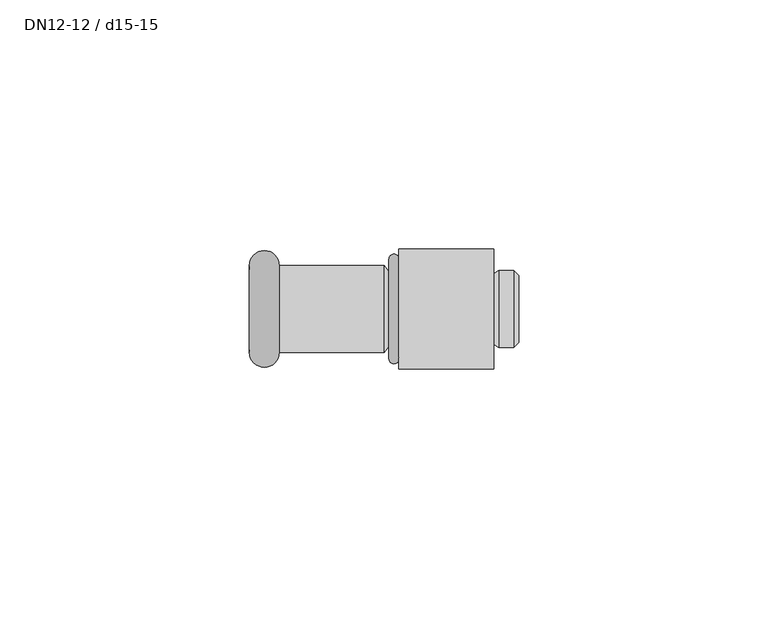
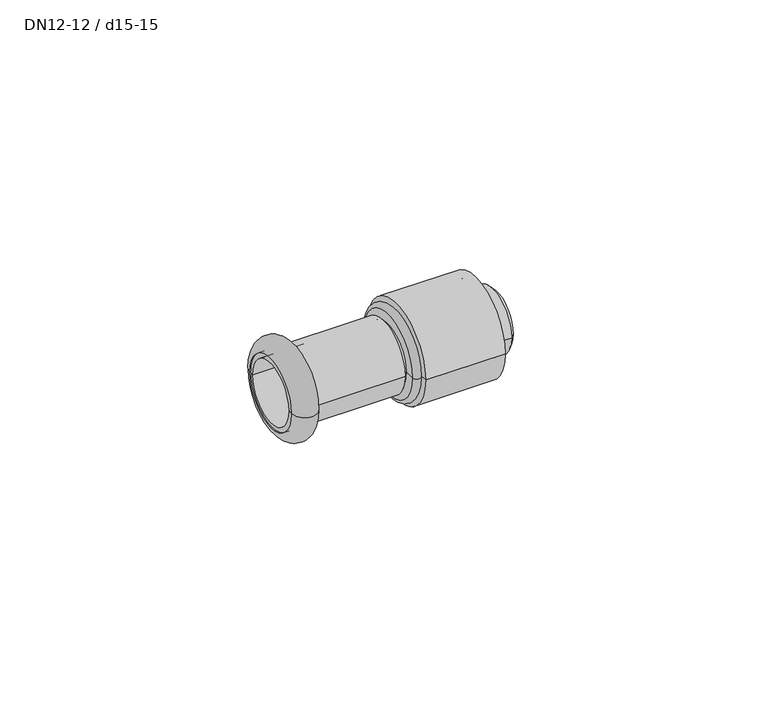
"""IFC4 building model written with IfcOpenShell, lengths in millimetres: pipe fitting geometry, NLRS_50_PIF_UN_Mapress overgang met MasterFix_geb : DN12-12 / d15-15."""

from ifc_helpers import new_model, si_unit, point, frame, origin, place, context, project, spatial, polyline, circle_curve, ellipse_curve, trimmed, source, transform, mapped, element, save
from ifc_brep_helpers import plane_surface, cylinder_surface, revolved_surface, advanced_brep


def dn12_12_d15_15_60170937(model_context):
    return source(origin(), model_context, "Body", "AdvancedBrep", [
        advanced_brep(
        [(-27.0, 8.7, 0.0), (-27.0, -8.7, 0.0), (-20.9987073, -8.7, 0.0), (-20.9987073, 8.7, 0.0)],
        [
            (0, 1, circle_curve(frame((-27.0, 0.0, 0.0), z_axis=(-1.0, 0.0, 0.0), x_axis=(0.0, -1.0, 0.0)), 8.7)),
            (1, 2),
            (2, 3, circle_curve(frame((-20.9987073, 0.0, 0.0), z_axis=(1.0, 0.0, 0.0), x_axis=(0.0, -1.0, 0.0)), 8.7)),
            (3, 0),
            (1, 0, circle_curve(frame((-27.0, 0.0, 0.0), z_axis=(-1.0, 0.0, 0.0), x_axis=(0.0, -1.0, 0.0)), 8.7)),
            (3, 2, circle_curve(frame((-20.9987073, 0.0, 0.0), z_axis=(1.0, 0.0, 0.0), x_axis=(0.0, -1.0, 0.0)), 8.7)),
            (2, 1, circle_curve(frame((-23.9993536, -8.7, 0.0), z_axis=(0.0, 0.0, -1.0), x_axis=(-1.0, 0.0, 0.0)), 3.0006464)),
            (0, 3, circle_curve(frame((-23.9993536, 8.7, 0.0), z_axis=(0.0, 0.0, -1.0), x_axis=(-1.0, 0.0, 0.0)), 3.0006464)),
        ],
        [
            revolved_surface(polyline([(-20.9987073, -8.7, 0.0), (-27.0, -8.7, 0.0)]), (0.0, 0.0, 0.0), (1.0, 0.0, 0.0)),
            revolved_surface(trimmed(ellipse_curve(frame((-23.9993536, -8.7, 0.0), z_axis=(0.0, 0.0, 1.0), x_axis=(-1.0, 0.0, 0.0)), 3.0006464, 3.0006464), [point((-27.0, -8.7, 0.0))], [point((-20.9987073, -8.7, 0.0))], True, "CARTESIAN"), (0.0, 0.0, 0.0), (1.0, 0.0, 0.0)),
        ],
        [
            (0, [[1, 2, 3, 4]]),
            (0, [[5, -4, 6, -2]]),
            (1, [[-3, 7, -1, 8]]),
            (1, [[-6, -8, -5, -7]]),
        ],
    ),
        advanced_brep(
        [(-27.0, 7.5, 0.0), (-27.0, -7.5, 0.0), (1.0, -7.5, 0.0), (1.0, 7.5, 0.0), (-27.0, 8.7, 0.0), (-27.0, -8.7, 0.0), (0.0, 8.7, 0.0), (0.0, -8.7, 0.0)],
        [
            (0, 1, circle_curve(frame((-27.0, 0.0, 0.0), z_axis=(-1.0, 0.0, 0.0), x_axis=(0.0, -1.0, 0.0)), 7.5)),
            (1, 2),
            (2, 3, circle_curve(frame((1.0, 0.0, 0.0), z_axis=(1.0, 0.0, 0.0), x_axis=(0.0, -1.0, 0.0)), 7.5)),
            (3, 0),
            (1, 0, circle_curve(frame((-27.0, 0.0, 0.0), z_axis=(-1.0, 0.0, 0.0), x_axis=(0.0, -1.0, 0.0)), 7.5)),
            (3, 2, circle_curve(frame((1.0, 0.0, 0.0), z_axis=(1.0, 0.0, 0.0), x_axis=(0.0, -1.0, 0.0)), 7.5)),
            (4, 5, circle_curve(frame((-27.0, 0.0, 0.0), z_axis=(-1.0, 0.0, 0.0), x_axis=(0.0, -1.0, 0.0)), 8.7)),
            (5, 1),
            (0, 4),
            (5, 4, circle_curve(frame((-27.0, 0.0, 0.0), z_axis=(-1.0, 0.0, 0.0), x_axis=(0.0, -1.0, 0.0)), 8.7)),
            (6, 7, circle_curve(frame((0.0, 0.0, 0.0), z_axis=(-1.0, 0.0, 0.0), x_axis=(0.0, -1.0, 0.0)), 8.7)),
            (7, 5),
            (4, 6),
            (7, 6, circle_curve(frame((0.0, 0.0, 0.0), z_axis=(-1.0, 0.0, 0.0), x_axis=(0.0, -1.0, 0.0)), 8.7)),
            (2, 7),
            (6, 3),
        ],
        [
            revolved_surface(polyline([(1.0, -7.5, 0.0), (-27.0, -7.5, 0.0)]), (0.0, 0.0, 0.0), (1.0, 0.0, 0.0)),
            plane_surface(frame((-27.0, 0.0, 0.0), z_axis=(-1.0, 0.0, 0.0), x_axis=(0.0, -1.0, 0.0))),
            cylinder_surface(frame((0.0, 0.0, 0.0), z_axis=(1.0, 0.0, 0.0), x_axis=(0.0, -1.0, 0.0)), 8.7),
            revolved_surface(polyline([(0.0, -8.7, 0.0), (1.0, -7.5, 0.0)]), (0.0, 0.0, 0.0), (1.0, 0.0, 0.0)),
        ],
        [
            (0, [[1, 2, 3, 4]]),
            (0, [[5, -4, 6, -2]]),
            (1, [[7, 8, -1, 9]]),
            (1, [[10, -9, -5, -8]]),
            (2, [[11, 12, -7, 13]]),
            (2, [[14, -13, -10, -12]]),
            (3, [[-3, 15, -11, 16]]),
            (3, [[-6, -16, -14, -15]]),
        ],
    ),
        advanced_brep(
        [(27.0, 0.0, 0.0), (27.0, -6.7, 0.0), (27.0, 6.7, 0.0), (1.0, 10.0, 0.0), (1.0, -10.0, 0.0), (1.0, 0.0, 0.0), (3.0, 10.0, 0.0), (3.0, -10.0, 0.0), (3.0, 7.7, 0.0), (3.0, -7.7, 0.0), (11.881966, 7.7, 0.0), (11.881966, -7.7, 0.0), (14.118034, 7.7, 0.0), (14.118034, -7.7, 0.0), (16.9414451, 7.7, 0.0), (16.9414451, -7.7, 0.0), (22.9892433, 7.7, 0.0), (22.9892433, -7.7, 0.0), (26.0, 7.7, 0.0), (26.0, -7.7, 0.0)],
        [
            (0, 1),
            (1, 2, circle_curve(frame((27.0, 0.0, 0.0), z_axis=(1.0, 0.0, 0.0), x_axis=(0.0, -1.0, 0.0)), 6.7)),
            (2, 0),
            (2, 1, circle_curve(frame((27.0, 0.0, 0.0), z_axis=(1.0, 0.0, 0.0), x_axis=(0.0, -1.0, 0.0)), 6.7)),
            (3, 4, circle_curve(frame((1.0, 0.0, 0.0), z_axis=(-1.0, 0.0, 0.0), x_axis=(0.0, -1.0, 0.0)), 10.0)),
            (4, 5),
            (5, 3),
            (4, 3, circle_curve(frame((1.0, 0.0, 0.0), z_axis=(-1.0, 0.0, 0.0), x_axis=(0.0, -1.0, 0.0)), 10.0)),
            (6, 7, circle_curve(frame((3.0, 0.0, 0.0), z_axis=(-1.0, 0.0, 0.0), x_axis=(0.0, -1.0, 0.0)), 10.0)),
            (7, 4, circle_curve(frame((2.0, -10.0, 0.0), z_axis=(0.0, 0.0, -1.0), x_axis=(-1.0, 0.0, 0.0)), 1.0)),
            (3, 6, circle_curve(frame((2.0, 10.0, 0.0), z_axis=(0.0, 0.0, -1.0), x_axis=(-1.0, 0.0, 0.0)), 1.0)),
            (7, 6, circle_curve(frame((3.0, 0.0, 0.0), z_axis=(-1.0, 0.0, 0.0), x_axis=(0.0, -1.0, 0.0)), 10.0)),
            (8, 9, circle_curve(frame((3.0, 0.0, 0.0), z_axis=(-1.0, 0.0, 0.0), x_axis=(0.0, -1.0, 0.0)), 7.7)),
            (9, 7),
            (6, 8),
            (9, 8, circle_curve(frame((3.0, 0.0, 0.0), z_axis=(-1.0, 0.0, 0.0), x_axis=(0.0, -1.0, 0.0)), 7.7)),
            (10, 11, circle_curve(frame((11.881966, 0.0, 0.0), z_axis=(-1.0, 0.0, 0.0), x_axis=(0.0, -1.0, 0.0)), 7.7)),
            (11, 9),
            (8, 10),
            (11, 10, circle_curve(frame((11.881966, 0.0, 0.0), z_axis=(-1.0, 0.0, 0.0), x_axis=(0.0, -1.0, 0.0)), 7.7)),
            (12, 13, circle_curve(frame((14.118034, 0.0, 0.0), z_axis=(-1.0, 0.0, 0.0), x_axis=(0.0, -1.0, 0.0)), 7.7)),
            (13, 11, circle_curve(frame((13.0, -7.1889209, 0.0), z_axis=(0.0, 0.0, -1.0), x_axis=(-1.0, 0.0, 0.0)), 1.2293095)),
            (10, 12, circle_curve(frame((13.0, 7.1889209, 0.0), z_axis=(0.0, 0.0, -1.0), x_axis=(-1.0, 0.0, 0.0)), 1.2293095)),
            (13, 12, circle_curve(frame((14.118034, 0.0, 0.0), z_axis=(-1.0, 0.0, 0.0), x_axis=(0.0, -1.0, 0.0)), 7.7)),
            (14, 15, circle_curve(frame((16.9414451, 0.0, 0.0), z_axis=(-1.0, 0.0, 0.0), x_axis=(0.0, -1.0, 0.0)), 7.7)),
            (15, 13),
            (12, 14),
            (15, 14, circle_curve(frame((16.9414451, 0.0, 0.0), z_axis=(-1.0, 0.0, 0.0), x_axis=(0.0, -1.0, 0.0)), 7.7)),
            (16, 17, circle_curve(frame((22.9892433, 0.0, 0.0), z_axis=(-1.0, 0.0, 0.0), x_axis=(0.0, -1.0, 0.0)), 7.7)),
            (17, 15, circle_curve(frame((19.9653442, -11.7319636, 0.0), z_axis=(0.0, 0.0, 1.0), x_axis=(-1.0, 0.0, 0.0)), 5.0399104)),
            (14, 16, circle_curve(frame((19.9653442, 11.7319636, 0.0), z_axis=(0.0, 0.0, 1.0), x_axis=(-1.0, 0.0, 0.0)), 5.0399104)),
            (17, 16, circle_curve(frame((22.9892433, 0.0, 0.0), z_axis=(-1.0, 0.0, 0.0), x_axis=(0.0, -1.0, 0.0)), 7.7)),
            (18, 19, circle_curve(frame((26.0, 0.0, 0.0), z_axis=(-1.0, 0.0, 0.0), x_axis=(0.0, -1.0, 0.0)), 7.7)),
            (19, 17),
            (16, 18),
            (19, 18, circle_curve(frame((26.0, 0.0, 0.0), z_axis=(-1.0, 0.0, 0.0), x_axis=(0.0, -1.0, 0.0)), 7.7)),
            (1, 19),
            (18, 2),
        ],
        [
            plane_surface(frame((27.0, 0.0, 0.0), z_axis=(1.0, 0.0, 0.0), x_axis=(0.0, -1.0, 0.0))),
            plane_surface(frame((1.0, 0.0, 0.0), z_axis=(-1.0, 0.0, 0.0), x_axis=(0.0, -1.0, 0.0))),
            revolved_surface(trimmed(ellipse_curve(frame((2.0, -10.0, 0.0), z_axis=(0.0, 0.0, 1.0), x_axis=(-1.0, 0.0, 0.0)), 1.0, 1.0), [point((1.0, -10.0, 0.0))], [point((3.0, -10.0, 0.0))], True, "CARTESIAN"), (35.045876, 0.0, 0.0), (1.0, 0.0, 0.0)),
            plane_surface(frame((3.0, 0.0, 0.0), z_axis=(1.0, 0.0, 0.0), x_axis=(0.0, -1.0, 0.0))),
            cylinder_surface(frame((35.045876, 0.0, 0.0), z_axis=(1.0, 0.0, 0.0), x_axis=(0.0, -1.0, 0.0)), 7.7),
            revolved_surface(trimmed(ellipse_curve(frame((13.0, -7.1889209, 0.0), z_axis=(0.0, 0.0, 1.0), x_axis=(-1.0, 0.0, 0.0)), 1.2293095, 1.2293095), [point((11.881966, -7.7, 0.0))], [point((14.118034, -7.7, 0.0))], True, "CARTESIAN"), (35.045876, 0.0, 0.0), (1.0, 0.0, 0.0)),
            revolved_surface(trimmed(ellipse_curve(frame((19.9653442, -11.7319636, 0.0), z_axis=(0.0, 0.0, -1.0), x_axis=(-1.0, 0.0, 0.0)), 5.0399104, 5.0399104), [point((16.9414451, -7.7, 0.0))], [point((22.9892433, -7.7, 0.0))], True, "CARTESIAN"), (35.045876, 0.0, 0.0), (1.0, 0.0, 0.0)),
            revolved_surface(polyline([(26.0, -7.7, 0.0), (27.0, -6.7, 0.0)]), (35.045876, 0.0, 0.0), (1.0, 0.0, 0.0)),
        ],
        [
            (0, [[1, 2, 3]]),
            (0, [[-3, 4, -1]]),
            (1, [[5, 6, 7]]),
            (1, [[8, -7, -6]]),
            (2, [[9, 10, -5, 11]]),
            (2, [[12, -11, -8, -10]]),
            (3, [[13, 14, -9, 15]]),
            (3, [[16, -15, -12, -14]]),
            (4, [[17, 18, -13, 19]]),
            (4, [[20, -19, -16, -18]]),
            (5, [[21, 22, -17, 23]]),
            (5, [[24, -23, -20, -22]]),
            (4, [[25, 26, -21, 27]]),
            (4, [[28, -27, -24, -26]]),
            (6, [[29, 30, -25, 31]]),
            (6, [[32, -31, -28, -30]]),
            (4, [[33, 34, -29, 35]]),
            (4, [[36, -35, -32, -34]]),
            (7, [[-2, 37, -33, 38]]),
            (7, [[-4, -38, -36, -37]]),
        ],
    ),
        advanced_brep(
        [(3.0, 10.0, 0.0), (3.0, -10.0, 0.0), (22.0, -10.0, 0.0), (22.0, 10.0, 0.0), (3.0, 12.0, 0.0), (3.0, -12.0, 0.0), (22.0, 12.0, 0.0), (22.0, -12.0, 0.0)],
        [
            (0, 1, circle_curve(frame((3.0, 0.0, 0.0), z_axis=(-1.0, 0.0, 0.0), x_axis=(0.0, -1.0, 0.0)), 10.0)),
            (1, 2),
            (2, 3, circle_curve(frame((22.0, 0.0, 0.0), z_axis=(1.0, 0.0, 0.0), x_axis=(0.0, -1.0, 0.0)), 10.0)),
            (3, 0),
            (1, 0, circle_curve(frame((3.0, 0.0, 0.0), z_axis=(-1.0, 0.0, 0.0), x_axis=(0.0, -1.0, 0.0)), 10.0)),
            (3, 2, circle_curve(frame((22.0, 0.0, 0.0), z_axis=(1.0, 0.0, 0.0), x_axis=(0.0, -1.0, 0.0)), 10.0)),
            (4, 5, circle_curve(frame((3.0, 0.0, 0.0), z_axis=(-1.0, 0.0, 0.0), x_axis=(0.0, -1.0, 0.0)), 12.0)),
            (5, 1),
            (0, 4),
            (5, 4, circle_curve(frame((3.0, 0.0, 0.0), z_axis=(-1.0, 0.0, 0.0), x_axis=(0.0, -1.0, 0.0)), 12.0)),
            (6, 7, circle_curve(frame((22.0, 0.0, 0.0), z_axis=(-1.0, 0.0, 0.0), x_axis=(0.0, -1.0, 0.0)), 12.0)),
            (7, 5),
            (4, 6),
            (7, 6, circle_curve(frame((22.0, 0.0, 0.0), z_axis=(-1.0, 0.0, 0.0), x_axis=(0.0, -1.0, 0.0)), 12.0)),
            (2, 7),
            (6, 3),
        ],
        [
            revolved_surface(polyline([(22.0, -10.0, 0.0), (3.0, -10.0, 0.0)]), (32.0, 0.0, 0.0), (1.0, 0.0, 0.0)),
            plane_surface(frame((3.0, 0.0, 0.0), z_axis=(-1.0, 0.0, 0.0), x_axis=(0.0, -1.0, 0.0))),
            cylinder_surface(frame((32.0, 0.0, 0.0), z_axis=(1.0, 0.0, 0.0), x_axis=(0.0, -1.0, 0.0)), 12.0),
            plane_surface(frame((22.0, 0.0, 0.0), z_axis=(1.0, 0.0, 0.0), x_axis=(0.0, -1.0, 0.0))),
        ],
        [
            (0, [[1, 2, 3, 4]]),
            (0, [[5, -4, 6, -2]]),
            (1, [[7, 8, -1, 9]]),
            (1, [[10, -9, -5, -8]]),
            (2, [[11, 12, -7, 13]]),
            (2, [[14, -13, -10, -12]]),
            (3, [[-3, 15, -11, 16]]),
            (3, [[-6, -16, -14, -15]]),
        ],
    ),
    ])


if __name__ == "__main__":
    model = new_model("IFC4")
    model_context = context("Model", 3, world=origin())
    ifc_project = project(units=[si_unit("LENGTHUNIT", "METRE", prefix="MILLI")], contexts=[model_context])
    site = spatial("IfcSite", under=ifc_project)
    building = spatial("IfcBuilding", under=site)
    placement = place(None, origin())
    dn12_12_d15_15_shape = dn12_12_d15_15_60170937(model_context)
    element("IfcPipeFitting", 1, ObjectType="NLRS_50_PIF_UN_Mapress overgang met MasterFix_geb : DN12-12 / d15-15", at=placement, inside=building, context=model_context, shape_type="MappedRepresentation", body=[
        mapped(dn12_12_d15_15_shape, transform((0.0, 0.0, 0.0), x_axis=(1.0, 0.0, 0.0), y_axis=(0.0, 1.0, 0.0), z_axis=(0.0, 0.0, 1.0))),
    ])
    save(model, "model.ifc")
